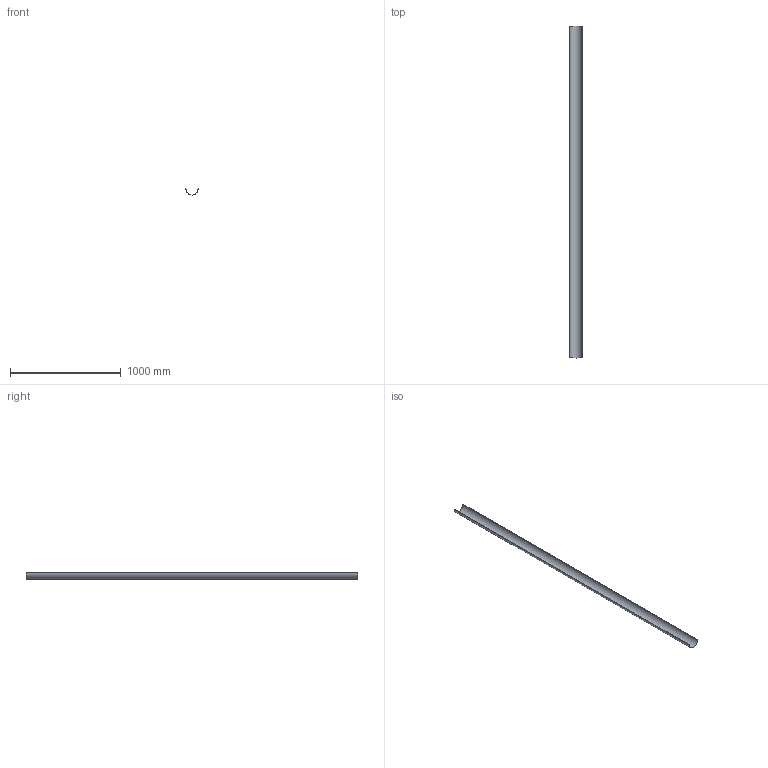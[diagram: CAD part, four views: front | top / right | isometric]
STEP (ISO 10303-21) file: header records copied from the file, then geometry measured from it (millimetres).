
FILE_DESCRIPTION(/* description */ (''),/* implementation_level */ '2;1');
FILE_NAME(/* name */ 'Z:\Geberit\Export\NewStep\367850.stp',/* time_stamp */ '2014-04-02T07:58:50+02:00',/* author */ ('bruh'),/* organization */ (''),/* preprocessor_version */ 'ST-DEVELOPER v15.2',/* originating_system */ 'Autodesk Inventor 2014',/* authorisation */ '');
FILE_SCHEMA (('AUTOMOTIVE_DESIGN { 1 0 10303 214 3 1 1 }'));
Length unit declared in the file: millimetre
Products named in the file (1): 367850
Bounding box: 111.5 x 3000 x 55.75 mm (x, y, z)
Volume: 391422.8 mm3; surface area: 1048555.1 mm2
Topology: 1 solids, 1 shells, 6 faces, 12 edges, 8 vertices
Faces by surface type: plane 4, cylinder 2
Entity records: 187 total; most frequent: DIRECTION 30, CARTESIAN_POINT 27, ORIENTED_EDGE 24, EDGE_CURVE 12, AXIS2_PLACEMENT_3D 11, LINE 8, VECTOR 8, VERTEX_POINT 8
